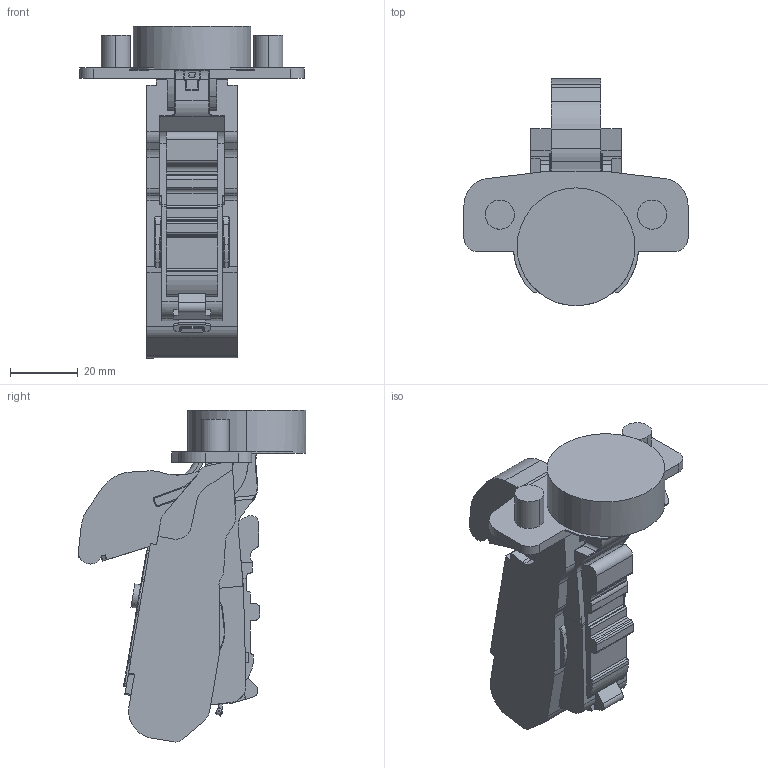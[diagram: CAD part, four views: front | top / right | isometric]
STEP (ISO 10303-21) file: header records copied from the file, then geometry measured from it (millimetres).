
FILE_DESCRIPTION (( 'STEP AP203' ), '1' );
FILE_NAME ('C81A805NFAB DTC 3D CLOSE.STEP', '2024-07-30T01:49:44', ( '微软用户' ), ( '微软中国' ), 'SwSTEP 2.0', 'SolidWorks 2021', '' );
FILE_SCHEMA (( 'CONFIG_CONTROL_DESIGN' ));
Length unit declared in the file: millimetre
Products named in the file (1): C81A805NFAB DTC 3D CLOSE
Bounding box: 66.2 x 67.21 x 98.04 mm (x, y, z)
Volume: 81993.4 mm3; surface area: 19320.2 mm2
Topology: 1 solids, 9 shells, 697 faces, 1918 edges, 1244 vertices
Faces by surface type: plane 307, cylinder 284, torus 79, bspline 16, sphere 7, cone 4
Entity records: 23528 total; most frequent: CARTESIAN_POINT 5651, ORIENTED_EDGE 3832, DIRECTION 3738, EDGE_CURVE 1916, AXIS2_PLACEMENT_3D 1323, VERTEX_POINT 1244, VECTOR 1092, LINE 1092
